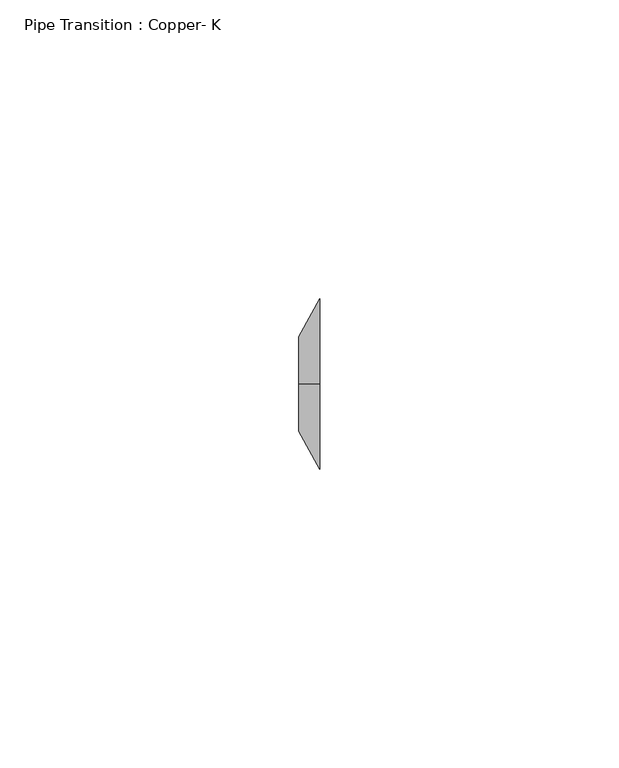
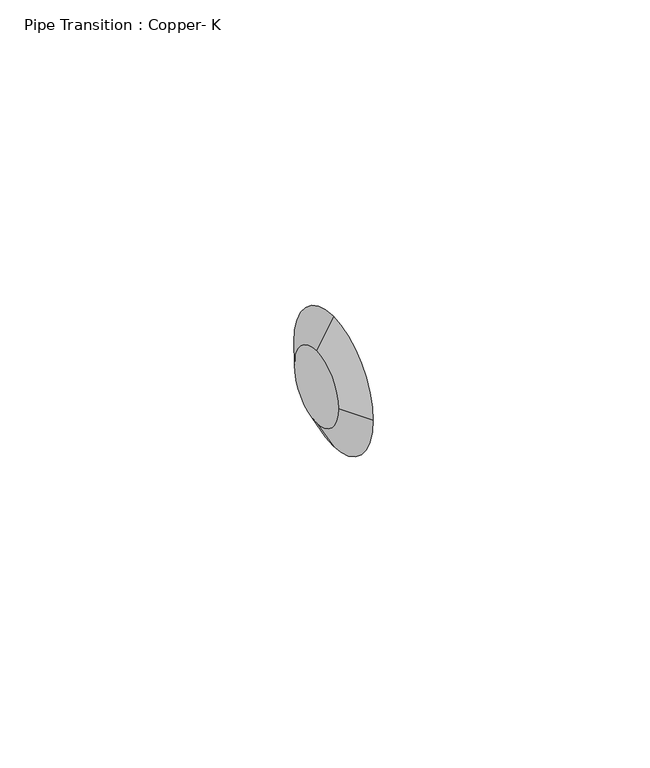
"""IFC4 building model written with IfcOpenShell, lengths in millimetres: pipe fitting geometry, Pipe Transition : Copper- K."""

from ifc_helpers import new_model, si_unit, frame, origin, place, context, project, spatial, polyline, circle_curve, source, transform, mapped, element, save
from ifc_brep_helpers import plane_surface, revolved_surface, advanced_brep


def pipe_transition_copper_k_8ba7ae3f(model_context):
    return source(origin(), model_context, "Body", "AdvancedBrep", [
        advanced_brep(
        [(3.571875, 0.0, 14.2875), (3.571875, -14.2875, 0.0), (3.571875, 0.0, -14.2875), (3.571875, 14.2875, 0.0), (0.0, 0.0, 7.9375), (0.0, 7.9375, 0.0), (0.0, 0.0, -7.9375), (0.0, -7.9375, 0.0)],
        [
            (0, 1, circle_curve(frame((3.571875, 0.0, 0.0), z_axis=(1.0, 0.0, 0.0), x_axis=(0.0, -1.0, 0.0)), 14.2875)),
            (1, 2, circle_curve(frame((3.571875, 0.0, 0.0), z_axis=(1.0, 0.0, 0.0), x_axis=(0.0, 0.0, -1.0)), 14.2875)),
            (2, 3, circle_curve(frame((3.571875, 0.0, 0.0), z_axis=(1.0, 0.0, 0.0), x_axis=(0.0, 1.0, 0.0)), 14.2875)),
            (3, 0, circle_curve(frame((3.571875, 0.0, 0.0), z_axis=(1.0, 0.0, 0.0), x_axis=(0.0, 0.0, 1.0)), 14.2875)),
            (4, 5, circle_curve(frame((0.0, 0.0, 0.0), z_axis=(-1.0, 0.0, 0.0), x_axis=(0.0, 0.0, 1.0)), 7.9375)),
            (5, 6, circle_curve(frame((0.0, 0.0, 0.0), z_axis=(-1.0, 0.0, 0.0), x_axis=(0.0, 1.0, 0.0)), 7.9375)),
            (6, 7, circle_curve(frame((0.0, 0.0, 0.0), z_axis=(-1.0, 0.0, 0.0), x_axis=(0.0, 0.0, -1.0)), 7.9375)),
            (7, 4, circle_curve(frame((0.0, 0.0, 0.0), z_axis=(-1.0, 0.0, 0.0), x_axis=(0.0, -1.0, 0.0)), 7.9375)),
            (4, 0),
            (3, 5),
            (2, 6),
            (1, 7),
        ],
        [
            plane_surface(frame((3.571875, 0.0, 0.0), z_axis=(1.0, 0.0, 0.0), x_axis=(0.0, 1.0, 0.0))),
            plane_surface(frame((0.0, 0.0, 0.0), z_axis=(-1.0, 0.0, 0.0), x_axis=(0.0, 1.0, 0.0))),
            revolved_surface(polyline([(0.0, 0.0, 7.937499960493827), (3.5718749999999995, 0.0, 14.2875)]), (-4.4648437, 0.0, 0.0), (1.0, 0.0, 0.0)),
            revolved_surface(polyline([(0.0, 7.937499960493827, 0.0), (3.5718749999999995, 14.2875, 0.0)]), (-4.4648437, 0.0, 0.0), (1.0, 0.0, 0.0)),
            revolved_surface(polyline([(0.0, 0.0, -7.937499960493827), (3.5718749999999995, 0.0, -14.2875)]), (-4.4648437, 0.0, 0.0), (1.0, 0.0, 0.0)),
            revolved_surface(polyline([(0.0, -7.937499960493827, 0.0), (3.5718749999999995, -14.2875, 0.0)]), (-4.4648437, 0.0, 0.0), (1.0, 0.0, 0.0)),
        ],
        [
            (0, [[1, 2, 3, 4]]),
            (1, [[5, 6, 7, 8]]),
            (2, [[9, -4, 10, -5]]),
            (3, [[-10, -3, 11, -6]]),
            (4, [[-11, -2, 12, -7]]),
            (5, [[-12, -1, -9, -8]]),
        ],
    ),
        advanced_brep(
        [(3.571875, 0.0, 14.2875), (3.571875, -14.2875, 0.0), (3.571875, 0.0, -14.2875), (3.571875, 14.2875, 0.0), (0.0, 0.0, 7.9375), (0.0, 7.9375, 0.0), (0.0, 0.0, -7.9375), (0.0, -7.9375, 0.0)],
        [
            (0, 1, circle_curve(frame((3.571875, 0.0, 0.0), z_axis=(1.0, 0.0, 0.0), x_axis=(0.0, -1.0, 0.0)), 14.2875)),
            (1, 2, circle_curve(frame((3.571875, 0.0, 0.0), z_axis=(1.0, 0.0, -3.646393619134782e-12), x_axis=(-3.6464130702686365e-12, 0.0, -1.0)), 14.2875)),
            (2, 3, circle_curve(frame((3.571875, 0.0, 0.0), z_axis=(1.0, 0.0, -2.2436177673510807e-12), x_axis=(0.0, 1.0, 0.0)), 14.2875)),
            (3, 0, circle_curve(frame((3.571875, 0.0, 0.0), z_axis=(1.0, 0.0, -2.3383567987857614e-12), x_axis=(2.338335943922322e-12, 0.0, 1.0)), 14.2875)),
            (4, 5, circle_curve(frame((0.0, 0.0, 0.0), z_axis=(-1.0, 0.0, 2.3383567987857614e-12), x_axis=(2.338335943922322e-12, 0.0, 1.0)), 7.9375)),
            (5, 6, circle_curve(frame((0.0, 0.0, 0.0), z_axis=(-1.0, 0.0, 2.2436177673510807e-12), x_axis=(0.0, 1.0, 0.0)), 7.9375)),
            (6, 7, circle_curve(frame((0.0, 0.0, 0.0), z_axis=(-1.0, 0.0, 3.646393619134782e-12), x_axis=(-3.6464130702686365e-12, 0.0, -1.0)), 7.9375)),
            (7, 4, circle_curve(frame((0.0, 0.0, 0.0), z_axis=(-1.0, 0.0, 0.0), x_axis=(0.0, -1.0, 0.0)), 7.9375)),
            (4, 0),
            (3, 5),
            (2, 6),
            (1, 7),
        ],
        [
            plane_surface(frame((3.571875, 0.0, 0.0), z_axis=(1.0, 0.0, 0.0), x_axis=(0.0, 1.0, 0.0))),
            plane_surface(frame((0.0, 0.0, 0.0), z_axis=(-1.0, 0.0, 0.0), x_axis=(0.0, 1.0, 0.0))),
            revolved_surface(polyline([(8.881784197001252e-16, 0.0, 7.937499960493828), (3.571875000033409, 0.0, 14.287500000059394)]), (-4.4648437, 0.0, 0.0), (1.0, 0.0, -2.3383567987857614e-12)),
            revolved_surface(polyline([(0.0, 7.937499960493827, 0.0), (3.5718750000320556, 14.28750000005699, 0.0)]), (-4.4648437, 0.0, 0.0), (1.0, 0.0, -2.2436177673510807e-12)),
            revolved_surface(polyline([(-2.894218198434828e-11, 0.0, -7.937499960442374), (3.5718749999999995, 0.0, -14.2875)]), (-4.4648437, 0.0, 0.0), (1.0, 0.0, -3.646393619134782e-12)),
            revolved_surface(polyline([(0.0, -7.937499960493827, 0.0), (3.5718749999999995, -14.2875, 0.0)]), (-4.4648437, 0.0, 0.0), (1.0, 0.0, 0.0)),
        ],
        [
            (0, [[1, 2, 3, 4]]),
            (1, [[5, 6, 7, 8]]),
            (2, [[9, -4, 10, -5]]),
            (3, [[-10, -3, 11, -6]]),
            (4, [[-11, -2, 12, -7]]),
            (5, [[-12, -1, -9, -8]]),
        ],
    ),
    ])


if __name__ == "__main__":
    model = new_model("IFC4")
    model_context = context("Model", 3, world=origin())
    ifc_project = project(units=[si_unit("LENGTHUNIT", "METRE", prefix="MILLI")], contexts=[model_context])
    site = spatial("IfcSite", under=ifc_project)
    building = spatial("IfcBuilding", under=site)
    placement = place(None, origin())
    pipe_transition_copper_k_shape = pipe_transition_copper_k_8ba7ae3f(model_context)
    element("IfcPipeFitting", 1, ObjectType="Pipe Transition : Copper- K", at=placement, inside=building, context=model_context, shape_type="MappedRepresentation", body=[
        mapped(pipe_transition_copper_k_shape, transform((0.0, 0.0, 0.0), x_axis=(1.0, 0.0, 0.0), y_axis=(0.0, 1.0, 0.0), z_axis=(0.0, 0.0, 1.0))),
    ])
    save(model, "model.ifc")
